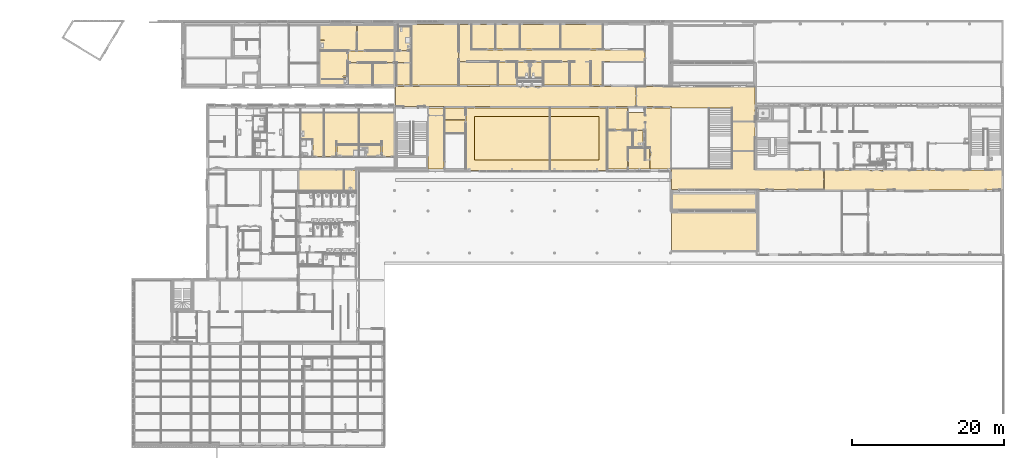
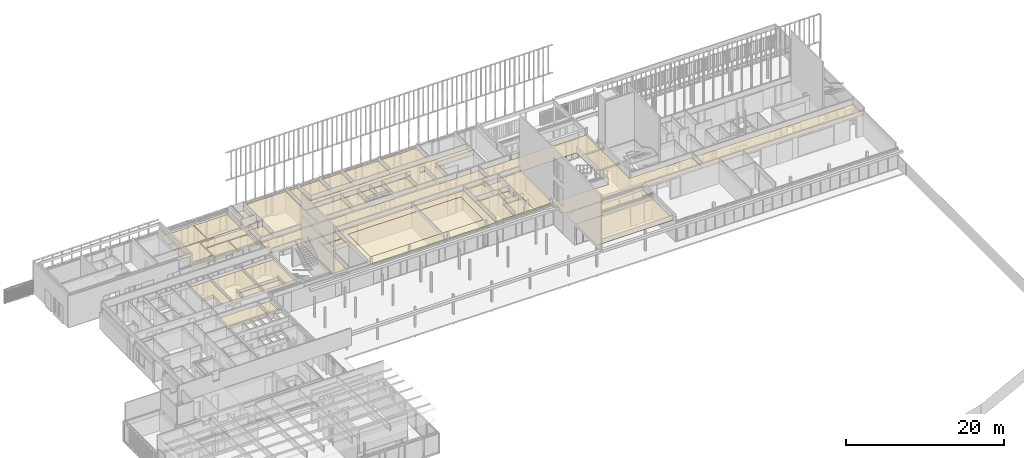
# One storey, part 232 of 240: 32 coverings.
"""IFC2X3 building model written with IfcOpenShell, lengths in centimetres."""

import ifcopenshell
import ifcopenshell.guid

model = None  # the IFC model being written
_history = None  # IfcOwnerHistory: only IFC2X3 demands one
_inside = {}  # id of a spatial element -> (the spatial element, [elements in it])
_under = {}  # id of a project, library or spatial element -> (it, [spatial elements below it])
_declared = {}  # id of a project -> (the project, [libraries it declares])
_typed = {}  # id of a type object -> (the type object, [elements of that type])
_made_of = {}  # id of a material, layer set ... -> (it, [elements and type objects made of it])


def new_model(schema):
    """Start an empty IFC model of exactly this schema.

    Asked for "IFC4X3", IfcOpenShell would pick the latest addendum, in which some entities
    have other attributes; the version numbers below select the first issue.
    IFC2X3 requires an IfcOwnerHistory on every rooted entity: one is made here for all.
    """
    global model, _history
    if schema == "IFC4X3":
        model = ifcopenshell.file(schema_version=(4, 3, 0, 0))
    else:
        model = ifcopenshell.file(schema=schema)
    _inside.clear()
    _under.clear()
    _declared.clear()
    _typed.clear()
    _made_of.clear()
    _history = None
    if model.schema == "IFC2X3":
        org = make("IfcOrganization", Name="unknown")
        user = make(
            "IfcPersonAndOrganization",
            ThePerson=make("IfcPerson", FamilyName="unknown"),
            TheOrganization=org,
        )
        app = make(
            "IfcApplication",
            ApplicationDeveloper=org,
            Version="unknown",
            ApplicationFullName="unknown",
            ApplicationIdentifier="unknown",
        )
        _history = make(
            "IfcOwnerHistory",
            OwningUser=user,
            OwningApplication=app,
            ChangeAction="ADDED",
            CreationDate=0,
        )
    return model


def make(cls, **values):
    """One entity of the class cls with the attributes given. An attribute that is None is left unset."""
    return model.create_entity(
        cls, **{name: value for name, value in values.items() if value is not None}
    )


def entity(cls, *values):
    """Any entity or typed value of the class cls, its attributes in the order of the schema. None: left unset."""
    e = model.create_entity(cls)
    for i, value in enumerate(values):
        if value is not None:
            e[i] = value
    return e


def rooted(cls, **values):
    """An entity with a GlobalId (a new one), such as an element, a storey or a relation."""
    return make(cls, GlobalId=ifcopenshell.guid.new(), OwnerHistory=_history, **values)


def si_unit(unit_type, name, prefix=None):
    """IfcSIUnit, for example si_unit("LENGTHUNIT", "METRE", prefix="MILLI")."""
    return make("IfcSIUnit", UnitType=unit_type, Prefix=prefix, Name=name)


def converted_unit(unit_type, name, factor, base, dimensions=None, offset=None):
    """IfcConversionBasedUnit, such as the inch: factor (a typed value) times the base unit."""
    return make(
        "IfcConversionBasedUnit"
        if offset is None
        else "IfcConversionBasedUnitWithOffset",
        ConversionOffset=offset,
        Dimensions=None
        if dimensions is None
        else entity("IfcDimensionalExponents", *dimensions),
        UnitType=unit_type,
        Name=name,
        ConversionFactor=make(
            "IfcMeasureWithUnit", ValueComponent=factor, UnitComponent=base
        ),
    )


def derived_unit(unit_type, elements):
    """IfcDerivedUnit: a product of units, each with its exponent."""
    return make(
        "IfcDerivedUnit",
        Elements=[
            make("IfcDerivedUnitElement", Unit=unit, Exponent=power)
            for unit, power in elements
        ],
        UnitType=unit_type,
    )


def assignment(units):
    """IfcUnitAssignment: the units of a project."""
    return None if units is None else make("IfcUnitAssignment", Units=units)


def point(xyz):
    """IfcCartesianPoint."""
    return None if xyz is None else make("IfcCartesianPoint", Coordinates=xyz)


def direction(xyz):
    """IfcDirection."""
    return None if xyz is None else make("IfcDirection", DirectionRatios=xyz)


def frame(location, z_axis=None, x_axis=None):
    """IfcAxis2Placement3D, a coordinate frame: its origin and axes. An axis left out is left unset."""
    return make(
        "IfcAxis2Placement3D",
        Location=point(location),
        Axis=direction(z_axis),
        RefDirection=direction(x_axis),
    )


def frame_2d(location, x_axis=None):
    """IfcAxis2Placement2D, a coordinate frame in the plane: its origin and x axis."""
    return make(
        "IfcAxis2Placement2D", Location=point(location), RefDirection=direction(x_axis)
    )


def origin():
    """The frame at (0, 0, 0) with its axes left unset."""
    return frame((0.0, 0.0, 0.0))


def origin_2d_with_axis():
    """The frame at (0, 0) in the plane with the x axis (1, 0) written out."""
    return frame_2d((0.0, 0.0), x_axis=(1.0, 0.0))


def place(relative_to, where):
    """IfcLocalPlacement: puts the frame where relative to a parent placement (None: the world)."""
    return make(
        "IfcLocalPlacement", PlacementRelTo=relative_to, RelativePlacement=where
    )


def context(
    kind, dimensions, precision=None, world=None, true_north=None, identifier=None
):
    """IfcGeometricRepresentationContext, for example the 3D "Model" context."""
    return make(
        "IfcGeometricRepresentationContext",
        ContextIdentifier=identifier,
        ContextType=kind,
        CoordinateSpaceDimension=dimensions,
        Precision=precision,
        WorldCoordinateSystem=world,
        TrueNorth=true_north,
    )


def subcontext(parent, identifier, kind, view, scale=None):
    """IfcGeometricRepresentationSubContext, for example "Body" below "Model"."""
    return make(
        "IfcGeometricRepresentationSubContext",
        ContextIdentifier=identifier,
        ContextType=kind,
        ParentContext=parent,
        TargetScale=scale,
        TargetView=view,
    )


def project(units=None, contexts=None):
    """IfcProject with its units and contexts."""
    return rooted(
        "IfcProject",
        Name="project",
        RepresentationContexts=contexts,
        UnitsInContext=assignment(units),
    )


def spatial(cls, under=None, at=None, **own):
    """A site, building, storey or space (cls), placed at a placement, below another one or the project."""
    s = rooted(cls, ObjectPlacement=at, **own)
    if under is not None:
        _under.setdefault(under.id(), (under, []))[1].append(s)
    return s


def polyline(points):
    """IfcPolyline through the points."""
    return make("IfcPolyline", Points=[point(p) for p in points])


def profile(cls, at=None, kind="AREA", **sizes):
    """A parametric profile (cls). Its sizes go by their IFC names, for example OverallWidth=200.0."""
    return make(cls, ProfileType=kind, Position=at, **sizes)


def rectangle(**sizes):
    """IfcRectangleProfileDef."""
    return profile("IfcRectangleProfileDef", **sizes)


def outline(outer, holes=None, kind="AREA"):
    """IfcArbitraryClosedProfileDef: a profile drawn as a closed curve; with holes, ...WithVoids."""
    if holes is None:
        return make("IfcArbitraryClosedProfileDef", ProfileType=kind, OuterCurve=outer)
    return make(
        "IfcArbitraryProfileDefWithVoids",
        ProfileType=kind,
        OuterCurve=outer,
        InnerCurves=holes,
    )


def extrude(swept, where, along, depth):
    """IfcExtrudedAreaSolid: the profile swept, set in the frame where, extruded along a direction by depth."""
    return make(
        "IfcExtrudedAreaSolid",
        SweptArea=swept,
        Position=where,
        ExtrudedDirection=direction(along),
        Depth=depth,
    )


def shape(context_of_items, identifier, shape_type, items):
    """IfcShapeRepresentation: the items that make up one representation, for example the "Body"."""
    return make(
        "IfcShapeRepresentation",
        ContextOfItems=context_of_items,
        RepresentationIdentifier=identifier,
        RepresentationType=shape_type,
        Items=items,
    )


def material(Name=None, Category=None):
    """IfcMaterial."""
    return make("IfcMaterial", Name=Name, Category=Category)


def layer(
    of_material, thickness, ventilated=None, Name=None, Category=None, Priority=None
):
    """IfcMaterialLayer: one layer of a wall or slab, of a material (None: an air gap)."""
    return make(
        "IfcMaterialLayer",
        Material=of_material,
        LayerThickness=thickness,
        IsVentilated=ventilated,
        Name=Name,
        Category=Category,
        Priority=Priority,
    )


def layer_set(layers, Name=None):
    """IfcMaterialLayerSet."""
    return make("IfcMaterialLayerSet", MaterialLayers=layers, LayerSetName=Name)


def layer_usage(for_layer_set, set_direction, sense, offset, extent=None):
    """IfcMaterialLayerSetUsage: how a layer set lies in its element."""
    return make(
        "IfcMaterialLayerSetUsage",
        ForLayerSet=for_layer_set,
        LayerSetDirection=set_direction,
        DirectionSense=sense,
        OffsetFromReferenceLine=offset,
        ReferenceExtent=extent,
    )


def made_of(thing, what):
    """Note that an element or type object is made of a material, layer set ...; save() writes the relation."""
    if what is not None:
        _made_of.setdefault(what.id(), (what, []))[1].append(thing)
    return thing


def type_object(cls, material=None, **own):
    """A type object (cls), such as IfcWallType, which elements share."""
    return made_of(rooted(cls, **own), material)


def element(
    cls,
    number,
    at=None,
    inside=None,
    cuts=None,
    type_object=None,
    material=None,
    context=None,
    identifier="Body",
    shape_type=None,
    held_by="IfcProductDefinitionShape",
    body=None,
    shapes=None,
    **own,
):
    """One element of the class cls, such as IfcWall. Its Tag is "e" and its number.

    at: its placement. inside: the storey or other place that contains it. cuts: it is an
    opening in that element (IfcRelVoidsElement). A single representation is given by context,
    identifier, shape_type and body (its items); several are given by shapes. held_by: the class
    of the entity that holds the representations. save() writes the other relations.
    """
    e = rooted(cls, Tag="e%d" % number, ObjectPlacement=at, **own)
    if body is not None:
        shapes = [shape(context, identifier, shape_type, body)]
    if shapes is not None:
        e.Representation = make(held_by, Representations=shapes)
    if inside is not None:
        _inside.setdefault(inside.id(), (inside, []))[1].append(e)
    if cuts is not None:
        rooted(
            "IfcRelVoidsElement", RelatingBuildingElement=cuts, RelatedOpeningElement=e
        )
    if type_object is not None:
        _typed.setdefault(type_object.id(), (type_object, []))[1].append(e)
    return made_of(e, material)


def aggregate(whole, parts):
    """IfcRelAggregates: a whole, such as a stair, and the parts it consists of."""
    return rooted("IfcRelAggregates", RelatingObject=whole, RelatedObjects=parts)


def save(model, path):
    """Write the relations noted so far, then the file.

    IfcRelAggregates (storeys below a building ...), IfcRelContainedInSpatialStructure (elements
    in a storey), IfcRelDefinesByType, IfcRelAssociatesMaterial and IfcRelDeclares: one each for
    every whole, place, type object, material and project.
    """
    for whole, parts in _under.values():
        aggregate(whole, parts)
    for where, things in _inside.values():
        rooted(
            "IfcRelContainedInSpatialStructure",
            RelatedElements=things,
            RelatingStructure=where,
        )
    for kind, things in _typed.values():
        rooted("IfcRelDefinesByType", RelatedObjects=things, RelatingType=kind)
    for what, things in _made_of.values():
        rooted("IfcRelAssociatesMaterial", RelatedObjects=things, RelatingMaterial=what)
    for by, libraries in _declared.values():
        rooted("IfcRelDeclares", RelatingContext=by, RelatedDefinitions=libraries)
    model.write(path)


model = new_model("IFC2X3")

# Units and contexts
model_context = context("Model", 3, precision=0.001, world=origin(), true_north=direction((6.12303176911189e-17, 1.0)))
body_context = subcontext(model_context, "Body", "Model", "MODEL_VIEW")
ifc_project = project(units=[si_unit("LENGTHUNIT", "METRE", prefix="CENTI"), si_unit("AREAUNIT", "SQUARE_METRE"), si_unit("VOLUMEUNIT", "CUBIC_METRE"), converted_unit("PLANEANGLEUNIT", "DEGREE", entity("IfcRatioMeasure", 0.0174532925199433), si_unit("PLANEANGLEUNIT", "RADIAN"), dimensions=[0, 0, 0, 0, 0, 0, 0]), si_unit("MASSUNIT", "GRAM", prefix="KILO"), derived_unit("MASSDENSITYUNIT", [(si_unit("MASSUNIT", "GRAM", prefix="KILO"), 1), (si_unit("LENGTHUNIT", "METRE"), -3)]), si_unit("TIMEUNIT", "SECOND"), si_unit("FREQUENCYUNIT", "HERTZ"), si_unit("THERMODYNAMICTEMPERATUREUNIT", "DEGREE_CELSIUS"), derived_unit("THERMALTRANSMITTANCEUNIT", [(si_unit("MASSUNIT", "GRAM", prefix="KILO"), 1), (si_unit("THERMODYNAMICTEMPERATUREUNIT", "KELVIN"), -1), (si_unit("TIMEUNIT", "SECOND"), -3)]), derived_unit("VOLUMETRICFLOWRATEUNIT", [(si_unit("LENGTHUNIT", "METRE"), 3), (si_unit("TIMEUNIT", "SECOND"), -1)]), si_unit("ELECTRICCURRENTUNIT", "AMPERE"), si_unit("ELECTRICVOLTAGEUNIT", "VOLT"), si_unit("POWERUNIT", "WATT"), si_unit("FORCEUNIT", "NEWTON", prefix="KILO"), si_unit("ILLUMINANCEUNIT", "LUX"), si_unit("LUMINOUSFLUXUNIT", "LUMEN"), si_unit("LUMINOUSINTENSITYUNIT", "CANDELA"), derived_unit("USERDEFINED", [(si_unit("MASSUNIT", "GRAM", prefix="KILO"), -1), (si_unit("LENGTHUNIT", "METRE"), -2), (si_unit("TIMEUNIT", "SECOND"), 3), (si_unit("LUMINOUSFLUXUNIT", "LUMEN"), 1)]), derived_unit("LINEARVELOCITYUNIT", [(si_unit("LENGTHUNIT", "METRE"), 1), (si_unit("TIMEUNIT", "SECOND"), -1)]), si_unit("PRESSUREUNIT", "PASCAL"), derived_unit("USERDEFINED", [(si_unit("LENGTHUNIT", "METRE"), -2), (si_unit("MASSUNIT", "GRAM", prefix="KILO"), 1), (si_unit("TIMEUNIT", "SECOND"), -2)])], contexts=[model_context])

# Site, building, storey, space
site_placement = place(None, frame((-2781.94577612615, 7442.24238424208, 0.0)))
site = spatial("IfcSite", under=ifc_project, at=site_placement, Name="Default", CompositionType="ELEMENT")
building_placement = place(site_placement, origin())
building = spatial("IfcBuilding", under=site, at=building_placement, CompositionType="ELEMENT")
storey_placement = place(building_placement, origin())
storey = spatial("IfcBuildingStorey", under=building, at=storey_placement, Name="N00 - COO", CompositionType="ELEMENT", Elevation=0.0)
space_1_placement = place(building_placement, origin())
space_1 = spatial("IfcSpace", under=storey, at=space_1_placement, Name="B-12", CompositionType="ELEMENT", InteriorOrExteriorSpace="INTERNAL")

# Covering
ifc_material_1 = material(Name="00 - VIDE D'AIR")
ifc_layer_1 = layer(ifc_material_1, 5.7)
ifc_material_2 = material(Name="01 - Enduit/Plâtre - faux plafonds")
ifc_layer_2 = layer(ifc_material_2, 1.3)
ifc_layer_set = layer_set([ifc_layer_1, ifc_layer_2], Name="Plafond composé:11-Plafond 1BA13")
ifc_layer_usage_1 = layer_usage(ifc_layer_set, "AXIS3", "POSITIVE", 0.0)
covering_type_1 = type_object("IfcCoveringType", Name="Plafond composé:11-Plafond 1BA13", PredefinedType="CEILING")
covering_1_placement = place(space_1_placement, origin())
element("IfcCovering", 1, at=covering_1_placement, inside=space_1, type_object=covering_type_1, material=ifc_layer_usage_1, Name="Plafond composé:11-Plafond 1BA13", ObjectType="Plafond composé:11-Plafond 1BA13", PredefinedType="CEILING", context=body_context, shape_type="SweptSolid", body=[
    extrude(outline(polyline([(-135.0, 13.7500000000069), (-135.0, -188.750000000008), (345.0, -188.750000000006), (345.0, 151.249999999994), (-135.0, 151.249999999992), (-135.0, 23.7500000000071), (-75.0, 23.7500000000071), (-75.0, 13.7500000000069), (-135.0, 13.7500000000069)])), frame((-9264.49987763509, -198.749999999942, 250.0), z_axis=(0.0, 0.0, -1.0), x_axis=(1.0, 0.0, 0.0)), (0.0, 0.0, -1.0), 6.99999999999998),
])

# Space
space_2_placement = place(building_placement, origin())
space_2 = spatial("IfcSpace", under=storey, at=space_2_placement, Name="B-13", CompositionType="ELEMENT", InteriorOrExteriorSpace="INTERNAL")

# Covering
ifc_layer_usage_2 = layer_usage(ifc_layer_set, "AXIS3", "POSITIVE", 0.0)
covering_type_2 = type_object("IfcCoveringType", Name="Plafond composé:11-Plafond 1BA13", PredefinedType="CEILING")
covering_2_placement = place(space_2_placement, origin())
element("IfcCovering", 2, at=covering_2_placement, inside=space_2, type_object=covering_type_2, material=ifc_layer_usage_2, Name="Plafond composé:11-Plafond 1BA13", ObjectType="Plafond composé:11-Plafond 1BA13", PredefinedType="CEILING", context=body_context, shape_type="SweptSolid", body=[
    extrude(rectangle(XDim=340.0, YDim=479.999999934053, at=origin_2d_with_axis()), frame((-8669.4998776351, -180.0, 250.0), z_axis=(0.0, 0.0, 1.0), x_axis=(0.0, -1.0, 0.0)), (0.0, 0.0, 1.0), 6.99999999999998),
])

# Space
space_3_placement = place(building_placement, origin())
space_3 = spatial("IfcSpace", under=storey, at=space_3_placement, Name="B-11", CompositionType="ELEMENT", InteriorOrExteriorSpace="INTERNAL")

# Covering
ifc_layer_usage_3 = layer_usage(ifc_layer_set, "AXIS3", "POSITIVE", 0.0)
covering_type_3 = type_object("IfcCoveringType", Name="Plafond composé:11-Plafond 1BA13", PredefinedType="CEILING")
covering_3_placement = place(space_3_placement, origin())
element("IfcCovering", 3, at=covering_3_placement, inside=space_3, type_object=covering_type_3, material=ifc_layer_usage_3, Name="Plafond composé:11-Plafond 1BA13", ObjectType="Plafond composé:11-Plafond 1BA13", PredefinedType="CEILING", context=body_context, shape_type="SweptSolid", body=[
    extrude(outline(polyline([(-171.299250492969, -103.875000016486), (-59.5750000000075, -103.875000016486), (-59.5750000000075, -47.8750000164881), (-49.5750000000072, -47.8750000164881), (-49.5750000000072, -103.875000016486), (280.449250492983, -103.875000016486), (280.449250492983, 255.62500004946), (-171.299250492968, 255.62500004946), (-171.299250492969, -103.875000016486)])), frame((-9143.87487761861, -640.449250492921, 248.500000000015), z_axis=(0.0, 0.0, 1.0), x_axis=(0.0, 1.0, 0.0)), (0.0, 0.0, 1.0), 6.99999999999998),
])

# Space
space_4_placement = place(building_placement, origin())
space_4 = spatial("IfcSpace", under=storey, at=space_4_placement, Name="B-14", CompositionType="ELEMENT", InteriorOrExteriorSpace="INTERNAL")

# Coverings
ifc_layer_usage_4 = layer_usage(ifc_layer_set, "AXIS3", "POSITIVE", 0.0)
covering_type_4 = type_object("IfcCoveringType", Name="Plafond composé:11-Plafond 1BA13", PredefinedType="CEILING")
covering_4_placement = place(space_4_placement, origin())
element("IfcCovering", 4, at=covering_4_placement, inside=space_4, type_object=covering_type_4, material=ifc_layer_usage_4, Name="Plafond composé:11-Plafond 1BA13", ObjectType="Plafond composé:11-Plafond 1BA13", PredefinedType="CEILING", context=body_context, shape_type="SweptSolid", body=[
    extrude(rectangle(XDim=291.748500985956, YDim=272.499999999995, at=frame_2d((-5.40012479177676e-13, 0.0), x_axis=(1.0, 0.0))), frame((-8565.74987766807, -665.874250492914, 248.500000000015), z_axis=(0.0, 0.0, 1.0), x_axis=(0.0, -1.0, 0.0)), (0.0, 0.0, 1.0), 6.99999999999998),
])
ifc_layer_usage_5 = layer_usage(ifc_layer_set, "AXIS3", "POSITIVE", 0.0)
covering_type_5 = type_object("IfcCoveringType", Name="Plafond composé:11-Plafond 1BA13", PredefinedType="CEILING")
covering_5_placement = place(building_placement, origin())
element("IfcCovering", 5, at=covering_5_placement, inside=storey, type_object=covering_type_5, material=ifc_layer_usage_5, Name="Plafond composé:11-Plafond 1BA13", ObjectType="Plafond composé:11-Plafond 1BA13", PredefinedType="CEILING", context=body_context, shape_type="SweptSolid", body=[
    extrude(rectangle(XDim=825.499999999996, YDim=149.999999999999, at=frame_2d((8.81072992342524e-13, 1.63424829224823e-13), x_axis=(1.0, 0.0))), frame((-8617.24987760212, -435.0, 230.0), z_axis=(0.0, 0.0, 1.0), x_axis=(-1.0, 0.0, 0.0)), (0.0, 0.0, 1.0), 7.00000000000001),
])

# Space
space_5_placement = place(building_placement, origin())
space_5 = spatial("IfcSpace", under=storey, at=space_5_placement, Name="C-12", CompositionType="ELEMENT", InteriorOrExteriorSpace="INTERNAL")

# Covering
ifc_layer_usage_6 = layer_usage(ifc_layer_set, "AXIS3", "POSITIVE", 0.0)
covering_type_6 = type_object("IfcCoveringType", Name="Plafond composé:11-Plafond 1BA13", PredefinedType="CEILING")
covering_6_placement = place(space_5_placement, origin())
element("IfcCovering", 6, at=covering_6_placement, inside=space_5, type_object=covering_type_6, material=ifc_layer_usage_6, Name="Plafond composé:11-Plafond 1BA13", ObjectType="Plafond composé:11-Plafond 1BA13", PredefinedType="CEILING", context=body_context, shape_type="SweptSolid", body=[
    extrude(rectangle(XDim=800.048500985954, YDim=618.250000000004, at=frame_2d((-5.11590769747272e-13, 0.0), x_axis=(1.0, 0.0))), frame((-7885.37487760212, -410.024250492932, 306.0), z_axis=(0.0, 0.0, 1.0), x_axis=(0.0, 1.0, 0.0)), (0.0, 0.0, 1.0), 6.99999999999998),
])

# Space
space_6_placement = place(building_placement, origin())
space_6 = spatial("IfcSpace", under=storey, at=space_6_placement, Name="C-11", CompositionType="ELEMENT", InteriorOrExteriorSpace="INTERNAL")

# Covering
ifc_layer_usage_7 = layer_usage(ifc_layer_set, "AXIS3", "POSITIVE", 0.0)
covering_type_7 = type_object("IfcCoveringType", Name="Plafond composé:11-Plafond 1BA13", PredefinedType="CEILING")
covering_7_placement = place(space_6_placement, origin())
element("IfcCovering", 7, at=covering_7_placement, inside=space_6, type_object=covering_type_7, material=ifc_layer_usage_7, Name="Plafond composé:11-Plafond 1BA13", ObjectType="Plafond composé:11-Plafond 1BA13", PredefinedType="CEILING", context=body_context, shape_type="SweptSolid", body=[
    extrude(rectangle(XDim=305.048500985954, YDim=507.75, at=frame_2d((-5.6843418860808e-14, 0.0), x_axis=(1.0, 0.0))), frame((-7312.37487760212, -657.524250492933, 306.0), z_axis=(0.0, 0.0, 1.0), x_axis=(0.0, 1.0, 0.0)), (0.0, 0.0, 1.0), 6.99999999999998),
])

# Space
space_7_placement = place(building_placement, origin())
space_7 = spatial("IfcSpace", under=storey, at=space_7_placement, Name="E-11", CompositionType="ELEMENT", InteriorOrExteriorSpace="INTERNAL")

# Covering
ifc_layer_usage_8 = layer_usage(ifc_layer_set, "AXIS3", "POSITIVE", 0.0)
covering_type_8 = type_object("IfcCoveringType", Name="Plafond composé:11-Plafond 1BA13", PredefinedType="CEILING")
covering_8_placement = place(space_7_placement, origin())
element("IfcCovering", 8, at=covering_8_placement, inside=space_7, type_object=covering_type_8, material=ifc_layer_usage_8, Name="Plafond composé:11-Plafond 1BA13", ObjectType="Plafond composé:11-Plafond 1BA13", PredefinedType="CEILING", context=body_context, shape_type="SweptSolid", body=[
    extrude(rectangle(XDim=305.048500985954, YDim=235.0, at=frame_2d((12.0951499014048, 23.4999999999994), x_axis=(1.0, 0.0))), frame((-6907.49987760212, -669.619400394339, 306.0), z_axis=(0.0, 0.0, 1.0), x_axis=(0.0, 1.0, 0.0)), (0.0, 0.0, 1.0), 6.99999999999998),
])

# Space
space_8_placement = place(building_placement, origin())
space_8 = spatial("IfcSpace", under=storey, at=space_8_placement, Name="C-15", CompositionType="ELEMENT", InteriorOrExteriorSpace="INTERNAL")

# Covering
ifc_layer_usage_9 = layer_usage(ifc_layer_set, "AXIS3", "POSITIVE", 0.0)
covering_type_9 = type_object("IfcCoveringType", Name="Plafond composé:11-Plafond 1BA13", PredefinedType="CEILING")
covering_9_placement = place(space_8_placement, origin())
element("IfcCovering", 9, at=covering_9_placement, inside=space_8, type_object=covering_type_9, material=ifc_layer_usage_9, Name="Plafond composé:11-Plafond 1BA13", ObjectType="Plafond composé:11-Plafond 1BA13", PredefinedType="CEILING", context=body_context, shape_type="SweptSolid", body=[
    extrude(rectangle(XDim=325.0, YDim=312.000000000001, at=frame_2d((2.55795384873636e-13, 0.0), x_axis=(1.0, 0.0))), frame((-6927.49987760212, -172.499999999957, 306.0), z_axis=(0.0, 0.0, 1.0), x_axis=(0.0, -1.0, 0.0)), (0.0, 0.0, 1.0), 6.99999999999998),
])

# Space
space_9_placement = place(building_placement, origin())
space_9 = spatial("IfcSpace", under=storey, at=space_9_placement, Name="C-16", CompositionType="ELEMENT", InteriorOrExteriorSpace="INTERNAL")

# Covering
ifc_layer_usage_10 = layer_usage(ifc_layer_set, "AXIS3", "POSITIVE", 0.0)
covering_type_10 = type_object("IfcCoveringType", Name="Plafond composé:11-Plafond 1BA13", PredefinedType="CEILING")
covering_10_placement = place(space_9_placement, origin())
element("IfcCovering", 10, at=covering_10_placement, inside=space_9, type_object=covering_type_10, material=ifc_layer_usage_10, Name="Plafond composé:11-Plafond 1BA13", ObjectType="Plafond composé:11-Plafond 1BA13", PredefinedType="CEILING", context=body_context, shape_type="SweptSolid", body=[
    extrude(rectangle(XDim=325.0, YDim=305.749999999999, at=frame_2d((53.3333333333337, 32.1249999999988), x_axis=(1.0, 0.0))), frame((-7278.49987760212, -119.166666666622, 306.0), z_axis=(0.0, 0.0, 1.0), x_axis=(0.0, -1.0, 0.0)), (0.0, 0.0, 1.0), 6.99999999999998),
])

# Space
space_10_placement = place(building_placement, origin())
space_10 = spatial("IfcSpace", under=storey, at=space_10_placement, Name="C-8", CompositionType="ELEMENT", InteriorOrExteriorSpace="INTERNAL")

# Covering
ifc_layer_usage_11 = layer_usage(ifc_layer_set, "AXIS3", "POSITIVE", 0.0)
covering_type_11 = type_object("IfcCoveringType", Name="Plafond composé:11-Plafond 1BA13", PredefinedType="CEILING")
covering_11_placement = place(space_10_placement, origin())
element("IfcCovering", 11, at=covering_11_placement, inside=space_10, type_object=covering_type_11, material=ifc_layer_usage_11, Name="Plafond composé:11-Plafond 1BA13", ObjectType="Plafond composé:11-Plafond 1BA13", PredefinedType="CEILING", context=body_context, shape_type="SweptSolid", body=[
    extrude(rectangle(XDim=325.0, YDim=526.000000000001, at=frame_2d((3.97903932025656e-13, 0.0), x_axis=(1.0, 0.0))), frame((-6498.49987760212, -172.499999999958, 306.0), z_axis=(0.0, 0.0, 1.0), x_axis=(0.0, -1.0, 0.0)), (0.0, 0.0, 1.0), 6.99999999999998),
])

# Space
space_11_placement = place(building_placement, origin())
space_11 = spatial("IfcSpace", under=storey, at=space_11_placement, Name="C-10", CompositionType="ELEMENT", InteriorOrExteriorSpace="INTERNAL")

# Covering
ifc_layer_usage_12 = layer_usage(ifc_layer_set, "AXIS3", "POSITIVE", 0.0)
covering_type_12 = type_object("IfcCoveringType", Name="Plafond composé:11-Plafond 1BA13", PredefinedType="CEILING")
covering_12_placement = place(space_11_placement, origin())
element("IfcCovering", 12, at=covering_12_placement, inside=space_11, type_object=covering_type_12, material=ifc_layer_usage_12, Name="Plafond composé:11-Plafond 1BA13", ObjectType="Plafond composé:11-Plafond 1BA13", PredefinedType="CEILING", context=body_context, shape_type="SweptSolid", body=[
    extrude(rectangle(XDim=325.0, YDim=549.000000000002, at=frame_2d((4.2632564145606e-13, 4.2632564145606e-13), x_axis=(1.0, 0.0))), frame((-5950.99987760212, -172.49999999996, 306.0), z_axis=(0.0, 0.0, 1.0), x_axis=(0.0, -1.0, 0.0)), (0.0, 0.0, 1.0), 6.99999999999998),
])

# Space
space_12_placement = place(building_placement, origin())
space_12 = spatial("IfcSpace", under=storey, at=space_12_placement, Name="C-14", CompositionType="ELEMENT", InteriorOrExteriorSpace="INTERNAL")

# Coverings
ifc_layer_usage_13 = layer_usage(ifc_layer_set, "AXIS3", "POSITIVE", 0.0)
covering_type_13 = type_object("IfcCoveringType", Name="Plafond composé:11-Plafond 1BA13", PredefinedType="CEILING")
covering_13_placement = place(space_12_placement, origin())
element("IfcCovering", 13, at=covering_13_placement, inside=space_12, type_object=covering_type_13, material=ifc_layer_usage_13, Name="Plafond composé:11-Plafond 1BA13", ObjectType="Plafond composé:11-Plafond 1BA13", PredefinedType="CEILING", context=body_context, shape_type="SweptSolid", body=[
    extrude(rectangle(XDim=305.048500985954, YDim=340.000000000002, at=origin_2d_with_axis()), frame((-6283.49987760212, -657.524250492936, 306.0), z_axis=(0.0, 0.0, 1.0), x_axis=(0.0, 1.0, 0.0)), (0.0, 0.0, 1.0), 6.99999999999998),
])
ifc_layer_usage_14 = layer_usage(ifc_layer_set, "AXIS3", "POSITIVE", 0.0)
covering_type_14 = type_object("IfcCoveringType", Name="Plafond composé:11-Plafond 1BA13", PredefinedType="CEILING")
covering_14_placement = place(building_placement, origin())
element("IfcCovering", 14, at=covering_14_placement, inside=storey, type_object=covering_type_14, material=ifc_layer_usage_14, Name="Plafond composé:11-Plafond 1BA13", ObjectType="Plafond composé:11-Plafond 1BA13", PredefinedType="CEILING", context=body_context, shape_type="SweptSolid", body=[
    extrude(outline(polyline([(1246.88888888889, -486.67744466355), (1403.88888888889, -486.67744466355), (1403.88888888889, -1.67744466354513), (-123.11111111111, -1.67744466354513), (-123.11111111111, 8.32255533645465), (-63.1111111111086, 8.32255533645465), (-63.1111111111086, 313.37105632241), (-330.111111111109, 313.37105632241), (-330.111111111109, 8.3225553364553), (-260.11111111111, 8.3225553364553), (-260.11111111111, -1.67744466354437), (-340.111111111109, -1.67744466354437), (-340.111111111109, 313.37105632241), (-490.111111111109, 313.37105632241), (-490.111111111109, -1.6774446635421), (-1044.11111111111, -1.6774446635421), (-1044.11111111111, -151.67744466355), (1246.88888888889, -151.67744466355), (1246.88888888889, -486.67744466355)])), frame((-6162.36098871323, -496.677444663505, 306.0), z_axis=(0.0, 0.0, 1.0), x_axis=(-1.0, 0.0, 0.0)), (0.0, 0.0, 1.0), 6.99999999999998),
])

# Space
space_13_placement = place(building_placement, origin())
space_13 = spatial("IfcSpace", under=storey, at=space_13_placement, Name="C-17", CompositionType="ELEMENT", InteriorOrExteriorSpace="INTERNAL")

# Covering
ifc_layer_usage_15 = layer_usage(ifc_layer_set, "AXIS3", "POSITIVE", 0.0)
covering_type_15 = type_object("IfcCoveringType", Name="Plafond composé:11-Plafond 1BA13", PredefinedType="CEILING")
covering_15_placement = place(space_13_placement, origin())
element("IfcCovering", 15, at=covering_15_placement, inside=space_13, type_object=covering_type_15, material=ifc_layer_usage_15, Name="Plafond composé:11-Plafond 1BA13", ObjectType="Plafond composé:11-Plafond 1BA13", PredefinedType="CEILING", context=body_context, shape_type="SweptSolid", body=[
    extrude(rectangle(XDim=165.000000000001, YDim=208.0, at=frame_2d((0.0, 5.6843418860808e-14), x_axis=(1.0, 0.0))), frame((-6720.99987760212, -609.0, 306.0), z_axis=(0.0, 0.0, 1.0), x_axis=(-1.0, 0.0, 0.0)), (0.0, 0.0, 1.0), 6.99999999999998),
])

# Space
space_14_placement = place(building_placement, origin())
space_14 = spatial("IfcSpace", under=storey, at=space_14_placement, Name="C-17", CompositionType="ELEMENT", InteriorOrExteriorSpace="INTERNAL")

# Covering
ifc_layer_usage_16 = layer_usage(ifc_layer_set, "AXIS3", "POSITIVE", 0.0)
covering_type_16 = type_object("IfcCoveringType", Name="Plafond composé:11-Plafond 1BA13", PredefinedType="CEILING")
covering_16_placement = place(space_14_placement, origin())
element("IfcCovering", 16, at=covering_16_placement, inside=space_14, type_object=covering_type_16, material=ifc_layer_usage_16, Name="Plafond composé:11-Plafond 1BA13", ObjectType="Plafond composé:11-Plafond 1BA13", PredefinedType="CEILING", context=body_context, shape_type="SweptSolid", body=[
    extrude(rectangle(XDim=208.0, YDim=165.000000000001, at=origin_2d_with_axis()), frame((-6545.99987760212, -609.0, 306.0), z_axis=(0.0, 0.0, 1.0), x_axis=(0.0, -1.0, 0.0)), (0.0, 0.0, 1.0), 6.99999999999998),
])

# Space
space_15_placement = place(building_placement, origin())
space_15 = spatial("IfcSpace", under=storey, at=space_15_placement, Name="B-9", CompositionType="ELEMENT", InteriorOrExteriorSpace="INTERNAL")

# Coverings
ifc_layer_usage_17 = layer_usage(ifc_layer_set, "AXIS3", "POSITIVE", 0.0)
covering_type_17 = type_object("IfcCoveringType", Name="Plafond composé:11-Plafond 1BA13", PredefinedType="CEILING")
covering_17_placement = place(space_15_placement, origin())
element("IfcCovering", 17, at=covering_17_placement, inside=space_15, type_object=covering_type_17, material=ifc_layer_usage_17, Name="Plafond composé:11-Plafond 1BA13", ObjectType="Plafond composé:11-Plafond 1BA13", PredefinedType="CEILING", context=body_context, shape_type="SweptSolid", body=[
    extrude(rectangle(XDim=272.000000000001, YDim=173.0, at=frame_2d((-4.40536496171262e-13, -2.20268248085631e-13), x_axis=(1.0, 0.0))), frame((-7620.49987760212, -1356.49999990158, 306.0), z_axis=(0.0, 0.0, 1.0), x_axis=(-1.0, 0.0, 0.0)), (0.0, 0.0, 1.0), 6.99999999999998),
])
ifc_layer_usage_18 = layer_usage(ifc_layer_set, "AXIS3", "POSITIVE", 0.0)
covering_type_18 = type_object("IfcCoveringType", Name="Plafond composé:11-Plafond 1BA13", PredefinedType="CEILING")
covering_18_placement = place(space_15_placement, origin())
element("IfcCovering", 18, at=covering_18_placement, inside=space_15, type_object=covering_type_18, material=ifc_layer_usage_18, Name="Plafond composé:11-Plafond 1BA13", ObjectType="Plafond composé:11-Plafond 1BA13", PredefinedType="CEILING", context=body_context, shape_type="SweptSolid", body=[
    extrude(rectangle(XDim=272.000000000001, YDim=150.000000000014, at=frame_2d((0.0, -2.20268248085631e-13), x_axis=(1.0, 0.0))), frame((-7620.49987760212, -1185.0, 306.0)), (0.0, 0.0, 1.0), 6.99999999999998),
])
ifc_layer_usage_19 = layer_usage(ifc_layer_set, "AXIS3", "POSITIVE", 0.0)
covering_type_19 = type_object("IfcCoveringType", Name="Plafond composé:11-Plafond 1BA13", PredefinedType="CEILING")
covering_19_placement = place(building_placement, origin())
element("IfcCovering", 19, at=covering_19_placement, inside=storey, type_object=covering_type_19, material=ifc_layer_usage_19, Name="Plafond composé:11-Plafond 1BA13", ObjectType="Plafond composé:11-Plafond 1BA13", PredefinedType="CEILING", context=body_context, shape_type="SweptSolid", body=[
    extrude(outline(polyline([(-410.694516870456, -926.625000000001), (410.694516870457, -926.625000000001), (410.694516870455, 926.625), (-410.694516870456, 926.625), (-410.694516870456, -926.625000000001)]), holes=[polyline([(-274.384516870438, 816.624999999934), (300.694516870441, 816.624999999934), (300.694516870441, -823.375000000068), (-274.384516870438, -823.375000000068), (-274.384516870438, 816.624999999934)])]), frame((-6547.87487760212, -1520.69451677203, 306.0), z_axis=(0.0, 0.0, 1.0), x_axis=(0.0, 1.0, 0.0)), (0.0, 0.0, 1.0), 6.99999999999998),
])
ifc_layer_usage_20 = layer_usage(ifc_layer_set, "AXIS3", "POSITIVE", 0.0)
covering_type_20 = type_object("IfcCoveringType", Name="Plafond composé:11-Plafond 1BA13", PredefinedType="CEILING")
covering_20_placement = place(building_placement, origin())
element("IfcCovering", 20, at=covering_20_placement, inside=storey, type_object=covering_type_20, material=ifc_layer_usage_20, Name="Plafond composé:11-Plafond 1BA13", ObjectType="Plafond composé:11-Plafond 1BA13", PredefinedType="CEILING", context=body_context, shape_type="SweptSolid", body=[
    extrude(rectangle(XDim=271.310000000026, YDim=275.000000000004, at=frame_2d((-3.24007487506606e-12, 0.0), x_axis=(1.0, 0.0))), frame((-5196.99987760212, -1775.73403364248, 306.0), z_axis=(0.0, 0.0, 1.0), x_axis=(0.0, 1.0, 0.0)), (0.0, 0.0, 1.0), 6.99999999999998),
    extrude(outline(polyline([(212.586956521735, -283.53292769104), (479.33695652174, -283.53292769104), (479.33695652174, 6.46707230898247), (212.58695652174, 6.46707230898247), (212.58695652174, -53.532927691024), (202.58695652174, -53.532927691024), (202.58695652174, 6.46707230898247), (-12.4130434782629, 6.46707230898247), (-12.4130434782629, -53.532927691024), (-22.4130434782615, -53.532927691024), (-22.4130434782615, 236.546106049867), (-82.4130434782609, 236.546106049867), (-82.4130434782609, 517.85610604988), (-343.913043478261, 517.85610604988), (-362.41304347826, 517.85610604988), (-362.41304347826, 414.546106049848), (-362.41304347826, -164.679793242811), (-362.41304347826, -283.532927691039), (-343.913043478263, -283.532927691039), (-22.4130434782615, -283.532927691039), (-22.4130434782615, -223.532927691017), (202.586956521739, -223.532927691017), (212.586956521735, -223.532927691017), (212.586956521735, -283.53292769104)])), frame((-5131.91292108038, -1393.53292759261, 306.0), z_axis=(0.0, 0.0, 1.0), x_axis=(-1.0, 0.0, 0.0)), (0.0, 0.0, 1.0), 6.99999999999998),
    extrude(outline(polyline([(20.4103220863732, -128.916666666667), (240.489355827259, -128.916666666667), (240.48935582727, 197.833333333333), (-260.899677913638, 197.833333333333), (-260.899677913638, -68.9166666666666), (20.4103220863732, -68.9166666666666), (20.4103220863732, -128.916666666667)])), frame((-5413.41654426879, -1650.48935572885, 306.0), z_axis=(0.0, 0.0, 1.0), x_axis=(0.0, 1.0, 0.0)), (0.0, 0.0, 1.0), 6.99999999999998),
    extrude(rectangle(XDim=1640.0, YDim=575.079033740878, at=frame_2d((4.54747350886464e-13, 0.0), x_axis=(1.0, 0.0))), frame((-6544.49987760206, -1507.53951677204, 306.0), z_axis=(0.0, 0.0, 1.0), x_axis=(-1.0, 0.0, 0.0)), (0.0, 0.0, 1.0), 6.99999999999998),
    extrude(outline(polyline([(-125.05268871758, -95.0001532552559), (95.0263450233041, -95.0001532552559), (95.0263450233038, 59.9998467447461), (30.0263436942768, 59.9998467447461), (30.0263436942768, 35.0003065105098), (-125.05268871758, 35.000306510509), (-125.05268871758, -95.0001532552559)])), frame((-5179.49972434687, -1535.05268861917, 306.0), z_axis=(0.0, 0.0, 1.0), x_axis=(0.0, -1.0, 0.0)), (0.0, 0.0, 1.0), 6.99999999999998),
])
ifc_layer_usage_21 = layer_usage(ifc_layer_set, "AXIS3", "POSITIVE", 0.0)
covering_type_21 = type_object("IfcCoveringType", Name="Plafond composé:11-Plafond 1BA13", PredefinedType="CEILING")
covering_21_placement = place(building_placement, origin())
element("IfcCovering", 21, at=covering_21_placement, inside=storey, type_object=covering_type_21, material=ifc_layer_usage_21, Name="Plafond composé:11-Plafond 1BA13", ObjectType="Plafond composé:11-Plafond 1BA13", PredefinedType="CEILING", context=body_context, shape_type="SweptSolid", body=[
    extrude(rectangle(XDim=259.951498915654, YDim=3172.00000006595, at=frame_2d((-1.13686837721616e-13, -7.95807864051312e-13), x_axis=(1.0, 0.0))), frame((-6823.4998776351, -960.024250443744, 306.0), z_axis=(0.0, 0.0, 1.0), x_axis=(0.0, 1.0, 0.0)), (0.0, 0.0, 1.0), 6.99999999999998),
    extrude(rectangle(XDim=2342.0, YDim=260.077533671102, at=frame_2d((0.0, 9.9475983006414e-14), x_axis=(1.0, 0.0))), frame((-1580.99988284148, -2060.11780047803, 306.0), z_axis=(0.0, 0.0, 1.0), x_axis=(-1.0, 0.0, 0.0)), (0.0, 0.0, 1.0), 6.99999999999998),
    extrude(rectangle(XDim=801.389033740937, YDim=213.000164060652, at=frame_2d((-1.98951966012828e-13, 31.1666393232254), x_axis=(1.0, 0.0))), frame((-7904.16659895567, -1510.69451677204, 306.0), z_axis=(0.0, 0.0, 1.0), x_axis=(0.0, -1.0, 0.0)), (0.0, 0.0, 1.0), 6.99999999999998),
    extrude(outline(polyline([(-225.583332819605, 400.425175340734), (574.416665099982, 400.425175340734), (574.416665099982, 678.062723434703), (-1431.58332966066, 678.062723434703), (-1431.58332966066, 420.425175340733), (-525.583332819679, 420.425175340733), (-525.583332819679, -679.605357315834), (1033.91666509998, -679.605357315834), (1033.91666509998, -419.653858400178), (574.416665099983, -419.653858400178), (574.416665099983, -399.653858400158), (-225.583332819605, -399.653858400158), (-225.583332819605, 400.425175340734)])), frame((-4193.58321250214, -1509.65385830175, 306.0), z_axis=(0.0, 0.0, 1.0), x_axis=(-1.0, 0.0, 0.0)), (0.0, 0.0, 1.0), 6.99999999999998),
])

# Space
space_16_placement = place(building_placement, origin())
space_16 = spatial("IfcSpace", under=storey, at=space_16_placement, Name="A-17", CompositionType="ELEMENT", InteriorOrExteriorSpace="INTERNAL")

# Covering
ifc_layer_usage_22 = layer_usage(ifc_layer_set, "AXIS3", "POSITIVE", 0.0)
covering_type_22 = type_object("IfcCoveringType", Name="Plafond composé:11-Plafond 1BA13", PredefinedType="CEILING")
covering_22_placement = place(space_16_placement, origin())
element("IfcCovering", 22, at=covering_22_placement, inside=space_16, type_object=covering_type_22, material=ifc_layer_usage_22, Name="Plafond composé:11-Plafond 1BA13", ObjectType="Plafond composé:11-Plafond 1BA13", PredefinedType="CEILING", context=body_context, shape_type="SweptSolid", body=[
    extrude(rectangle(XDim=584.999999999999, YDim=269.000000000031, at=frame_2d((0.0, -1.13686837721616e-13), x_axis=(1.0, 0.0))), frame((-9384.4999969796, -2064.57903364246, 250.0)), (0.0, 0.0, 1.0), 6.99999999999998),
])

# Space
space_17_placement = place(building_placement, origin())
space_17 = spatial("IfcSpace", under=storey, at=space_17_placement, Name="E-8.2", CompositionType="ELEMENT", InteriorOrExteriorSpace="INTERNAL")

# Covering
ifc_layer_usage_23 = layer_usage(ifc_layer_set, "AXIS3", "POSITIVE", 0.0)
covering_type_23 = type_object("IfcCoveringType", Name="Plafond composé:11-Plafond 1BA13", PredefinedType="CEILING")
covering_23_placement = place(space_17_placement, origin())
element("IfcCovering", 23, at=covering_23_placement, inside=space_17, type_object=covering_type_23, material=ifc_layer_usage_23, Name="Plafond composé:11-Plafond 1BA13", ObjectType="Plafond composé:11-Plafond 1BA13", PredefinedType="CEILING", context=body_context, shape_type="SweptSolid", body=[
    extrude(rectangle(XDim=160.067816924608, YDim=269.000000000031, at=frame_2d((0.0, 2.1316282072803e-13), x_axis=(1.0, 0.0))), frame((-9001.9660885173, -2064.57903364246, 250.0), z_axis=(0.0, 0.0, 1.0), x_axis=(-1.0, 0.0, 0.0)), (0.0, 0.0, 1.0), 6.99999999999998),
])

# Space
space_18_placement = place(building_placement, origin())
space_18 = spatial("IfcSpace", under=storey, at=space_18_placement, Name="A-15", CompositionType="ELEMENT", InteriorOrExteriorSpace="INTERNAL")

# Covering
ifc_layer_usage_24 = layer_usage(ifc_layer_set, "AXIS3", "POSITIVE", 0.0)
covering_type_24 = type_object("IfcCoveringType", Name="Plafond composé:11-Plafond 1BA13", PredefinedType="CEILING")
covering_24_placement = place(space_18_placement, origin())
element("IfcCovering", 24, at=covering_24_placement, inside=space_18, type_object=covering_type_24, material=ifc_layer_usage_24, Name="Plafond composé:11-Plafond 1BA13", ObjectType="Plafond composé:11-Plafond 1BA13", PredefinedType="CEILING", context=body_context, shape_type="SweptSolid", body=[
    extrude(outline(polyline([(-153.333333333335, 39.333333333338), (-153.333333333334, -308.666666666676), (146.666666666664, -308.666666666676), (146.666666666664, 269.333333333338), (6.66666666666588, 269.333333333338), (6.66666666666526, 39.333333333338), (-153.333333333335, 39.333333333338)])), frame((-9501.16654433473, -1480.66666656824, 260.0), z_axis=(0.0, 0.0, -1.0), x_axis=(1.0, 0.0, 0.0)), (0.0, 0.0, -1.0), 6.99999999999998),
])

# Space
space_19_placement = place(building_placement, origin())
space_19 = spatial("IfcSpace", under=storey, at=space_19_placement, Name="A-16", CompositionType="ELEMENT", InteriorOrExteriorSpace="INTERNAL")

# Covering
ifc_layer_usage_25 = layer_usage(ifc_layer_set, "AXIS3", "POSITIVE", 0.0)
covering_type_25 = type_object("IfcCoveringType", Name="Plafond composé:11-Plafond 1BA13", PredefinedType="CEILING")
covering_25_placement = place(space_19_placement, origin())
element("IfcCovering", 25, at=covering_25_placement, inside=space_19, type_object=covering_type_25, material=ifc_layer_usage_25, Name="Plafond composé:11-Plafond 1BA13", ObjectType="Plafond composé:11-Plafond 1BA13", PredefinedType="CEILING", context=body_context, shape_type="SweptSolid", body=[
    extrude(rectangle(XDim=150.0, YDim=287.5, at=frame_2d((0.0, -8.66862137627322e-13), x_axis=(1.0, 0.0))), frame((-9035.74987766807, -1675.0, 260.0), z_axis=(0.0, 0.0, 1.0), x_axis=(0.0, 1.0, 0.0)), (0.0, 0.0, 1.0), 6.99999999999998),
])

# Space
space_20_placement = place(building_placement, origin())
space_20 = spatial("IfcSpace", under=storey, at=space_20_placement, Name="A-16", CompositionType="ELEMENT", InteriorOrExteriorSpace="INTERNAL")

# Coverings
ifc_layer_usage_26 = layer_usage(ifc_layer_set, "AXIS3", "POSITIVE", 0.0)
covering_type_26 = type_object("IfcCoveringType", Name="Plafond composé:11-Plafond 1BA13", PredefinedType="CEILING")
covering_26_placement = place(space_20_placement, origin())
element("IfcCovering", 26, at=covering_26_placement, inside=space_20, type_object=covering_type_26, material=ifc_layer_usage_26, Name="Plafond composé:11-Plafond 1BA13", ObjectType="Plafond composé:11-Plafond 1BA13", PredefinedType="CEILING", context=body_context, shape_type="SweptSolid", body=[
    extrude(rectangle(XDim=150.0, YDim=287.500000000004, at=frame_2d((1.13686837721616e-13, -8.66862137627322e-13), x_axis=(1.0, 0.0))), frame((-8738.24987766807, -1675.0, 260.0), z_axis=(0.0, 0.0, 1.0), x_axis=(0.0, 1.0, 0.0)), (0.0, 0.0, 1.0), 6.99999999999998),
])
ifc_layer_usage_27 = layer_usage(ifc_layer_set, "AXIS3", "POSITIVE", 0.0)
covering_type_27 = type_object("IfcCoveringType", Name="Plafond composé:11-Plafond 1BA13", PredefinedType="CEILING")
covering_27_placement = place(building_placement, origin())
element("IfcCovering", 27, at=covering_27_placement, inside=storey, type_object=covering_type_27, material=ifc_layer_usage_27, Name="Plafond composé:11-Plafond 1BA13", ObjectType="Plafond composé:11-Plafond 1BA13", PredefinedType="CEILING", context=body_context, shape_type="SweptSolid", body=[
    extrude(outline(polyline([(-343.500000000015, -193.125), (234.500000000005, -193.125), (234.500000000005, -38.1250000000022), (34.5000000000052, -38.1250000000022), (34.5000000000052, -28.125000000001), (74.5000000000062, -28.125000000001), (74.5000000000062, 259.375000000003), (-343.500000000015, 259.375000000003), (-343.500000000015, -193.125)])), frame((-9151.37487766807, -1515.49999990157, 260.0), z_axis=(0.0, 0.0, 1.0), x_axis=(0.0, -1.0, 0.0)), (0.0, 0.0, 1.0), 6.99999999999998),
    extrude(outline(polyline([(-193.124999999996, -343.50000000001), (259.374999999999, -343.50000000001), (259.374999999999, 74.5000000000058), (-28.1250000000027, 74.5000000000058), (-28.1250000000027, 34.5000000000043), (-38.1250000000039, 34.5000000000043), (-38.1250000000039, 234.499999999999), (-193.124999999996, 234.499999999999), (-193.124999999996, -343.50000000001)])), frame((-8622.62487766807, -1515.49999990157, 260.0), z_axis=(0.0, 0.0, 1.0), x_axis=(-1.0, 0.0, 0.0)), (0.0, 0.0, 1.0), 6.99999999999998),
])

# Space
space_21_placement = place(building_placement, origin())
space_21 = spatial("IfcSpace", under=storey, at=space_21_placement, Name="F-1", CompositionType="ELEMENT", InteriorOrExteriorSpace="INTERNAL")

# Covering
ifc_layer_usage_28 = layer_usage(ifc_layer_set, "AXIS3", "POSITIVE", 0.0)
covering_type_28 = type_object("IfcCoveringType", Name="Plafond composé:11-Plafond 1BA13", PredefinedType="CEILING")
covering_28_placement = place(space_21_placement, origin())
element("IfcCovering", 28, at=covering_28_placement, inside=space_21, type_object=covering_type_28, material=ifc_layer_usage_28, Name="Plafond composé:11-Plafond 1BA13", ObjectType="Plafond composé:11-Plafond 1BA13", PredefinedType="CEILING", context=body_context, shape_type="SweptSolid", body=[
    extrude(outline(polyline([(-564.879999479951, 50.6400036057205), (-564.879999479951, -184.359996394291), (553.619998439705, -184.359996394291), (553.619998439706, 50.640003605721), (448.377045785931, 50.640003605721), (448.377045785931, 83.0799891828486), (-437.117044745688, 83.0799891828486), (-437.117044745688, 50.6400036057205), (-564.879999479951, 50.6400036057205)])), frame((-4214.37987916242, -2280.79657091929, 306.0), z_axis=(0.0, 0.0, -1.0), x_axis=(-1.0, 0.0, 0.0)), (0.0, 0.0, -1.0), 6.99999999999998),
])

# Space
space_22_placement = place(building_placement, origin())
space_22 = spatial("IfcSpace", under=storey, at=space_22_placement, Name="B-17", CompositionType="ELEMENT", InteriorOrExteriorSpace="INTERNAL")

# Covering
ifc_layer_usage_29 = layer_usage(ifc_layer_set, "AXIS3", "POSITIVE", 0.0)
covering_type_29 = type_object("IfcCoveringType", Name="Plafond composé:11-Plafond 1BA13", PredefinedType="CEILING")
covering_29_placement = place(space_22_placement, origin())
element("IfcCovering", 29, at=covering_29_placement, inside=space_22, type_object=covering_type_29, material=ifc_layer_usage_29, Name="Plafond composé:11-Plafond 1BA13", ObjectType="Plafond composé:11-Plafond 1BA13", PredefinedType="CEILING", context=body_context, shape_type="SweptSolid", body=[
    extrude(rectangle(XDim=165.000000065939, YDim=309.999999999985, at=origin_2d_with_axis()), frame((-8286.9998776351, -195.0, 250.0), z_axis=(0.0, 0.0, 1.0), x_axis=(-1.0, 0.0, 0.0)), (0.0, 0.0, 1.0), 6.99999999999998),
])

# Space
space_23_placement = place(building_placement, origin())
space_23 = spatial("IfcSpace", under=storey, at=space_23_placement, Name="B-15", CompositionType="ELEMENT", InteriorOrExteriorSpace="INTERNAL")

# Covering
ifc_layer_usage_30 = layer_usage(ifc_layer_set, "AXIS3", "POSITIVE", 0.0)
covering_type_30 = type_object("IfcCoveringType", Name="Plafond composé:11-Plafond 1BA13", PredefinedType="CEILING")
covering_30_placement = place(space_23_placement, origin())
element("IfcCovering", 30, at=covering_30_placement, inside=space_23, type_object=covering_type_30, material=ifc_layer_usage_30, Name="Plafond composé:11-Plafond 1BA13", ObjectType="Plafond composé:11-Plafond 1BA13", PredefinedType="CEILING", context=body_context, shape_type="SweptSolid", body=[
    extrude(rectangle(XDim=317.999999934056, YDim=290.048500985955, at=frame_2d((-8.66862137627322e-13, -2.70006239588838e-13), x_axis=(1.0, 0.0))), frame((-8870.9998776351, -665.024250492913, 250.0), z_axis=(0.0, 0.0, 1.0), x_axis=(-1.0, 0.0, 0.0)), (0.0, 0.0, 1.0), 6.99999999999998),
])

# Space
space_24_placement = place(building_placement, origin())
space_24 = spatial("IfcSpace", under=storey, at=space_24_placement, Name="H-1", CompositionType="ELEMENT", InteriorOrExteriorSpace="INTERNAL")

# Coverings
ifc_layer_usage_31 = layer_usage(ifc_layer_set, "AXIS3", "POSITIVE", 0.0)
covering_type_31 = type_object("IfcCoveringType", Name="Plafond composé:11-Plafond 1BA13", PredefinedType="CEILING")
covering_31_placement = place(space_24_placement, origin())
element("IfcCovering", 31, at=covering_31_placement, inside=space_24, type_object=covering_type_31, material=ifc_layer_usage_31, Name="Plafond composé:11-Plafond 1BA13", ObjectType="Plafond composé:11-Plafond 1BA13", PredefinedType="CEILING", context=body_context, shape_type="SweptSolid", body=[
    extrude(rectangle(XDim=1118.49999791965, YDim=535.156932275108, at=frame_2d((-63.8267206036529, 37.511209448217), x_axis=(1.0, 0.0))), frame((-4144.92315803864, -2780.24624289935, 313.0)), (0.0, 0.0, 1.0), 6.99999999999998),
])
ifc_layer_usage_32 = layer_usage(ifc_layer_set, "AXIS3", "POSITIVE", 0.0)
covering_type_32 = type_object("IfcCoveringType", Name="Plafond composé:11-Plafond 1BA13", PredefinedType="CEILING")
covering_32_placement = place(building_placement, origin())
element("IfcCovering", 32, at=covering_32_placement, inside=storey, type_object=covering_type_32, material=ifc_layer_usage_32, Name="Plafond composé:11-Plafond 1BA13", ObjectType="Plafond composé:11-Plafond 1BA13", PredefinedType="CEILING", context=body_context, shape_type="SweptSolid", body=[
    extrude(rectangle(XDim=205.000000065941, YDim=290.048500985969, at=frame_2d((0.0, 5.6843418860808e-14), x_axis=(1.0, 0.0))), frame((-8306.9998776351, -665.024250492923, 306.0)), (0.0, 0.0, 1.0), 6.99999999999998),
])

save(model, "model.ifc")
